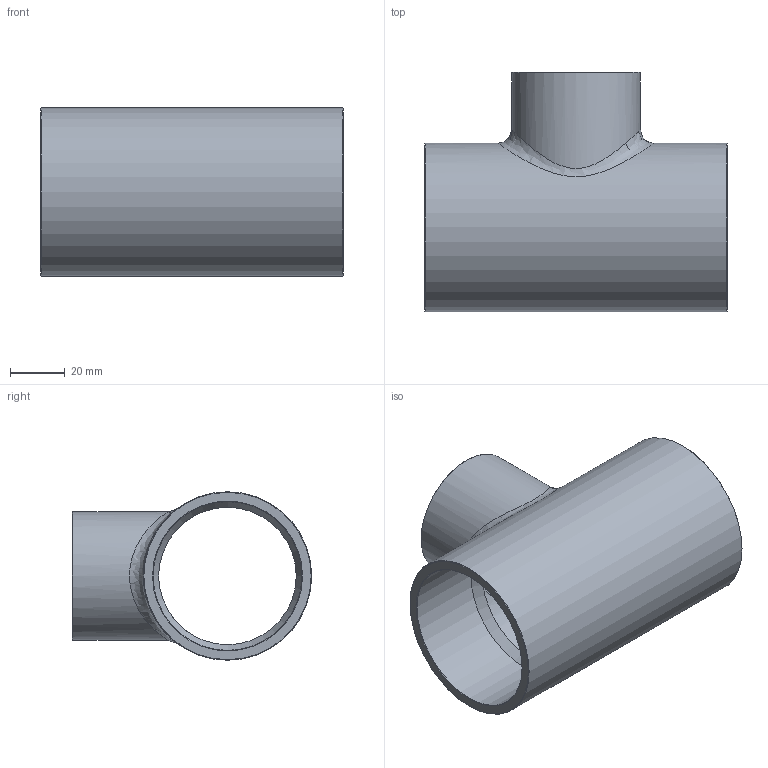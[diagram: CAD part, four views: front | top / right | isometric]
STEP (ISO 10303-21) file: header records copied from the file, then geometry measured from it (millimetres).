
FILE_DESCRIPTION((''),'2;1');
FILE_NAME('G:\SANHA-Ternat\Technik\Management\Bouwmaten + markeringen\z-maattekeningen 3D\29000s\29130218158218_3d.stp','2017-08-07T15:59:33',('vdvijverd'),(''),'Autodesk Inventor 2009','Autodesk Inventor 2009','');
FILE_SCHEMA(('AUTOMOTIVE_DESIGN { 1 0 10303 214 1 1 1 1 }'));
Length unit declared in the file: millimetre
Products named in the file (1): 29130218158218_3d
Bounding box: 110 x 87.15 x 61.3 mm (x, y, z)
Volume: 94137.9 mm3; surface area: 46751 mm2
Topology: 1 solids, 1 shells, 21 faces, 53 edges, 33 vertices
Faces by surface type: cone 8, cylinder 6, bspline 4, plane 3
Full cylindrical faces by diameter (mm): 38 x1, 41.455 x1, 46.9 x1, 54.155 x1, 61.3 x1
Entity records: 2649 total; most frequent: CARTESIAN_POINT 2233, DIRECTION 80, ORIENTED_EDGE 60, AXIS2_PLACEMENT_3D 40, EDGE_LOOP 40, EDGE_CURVE 30, VERTEX_POINT 26, CIRCLE 22
